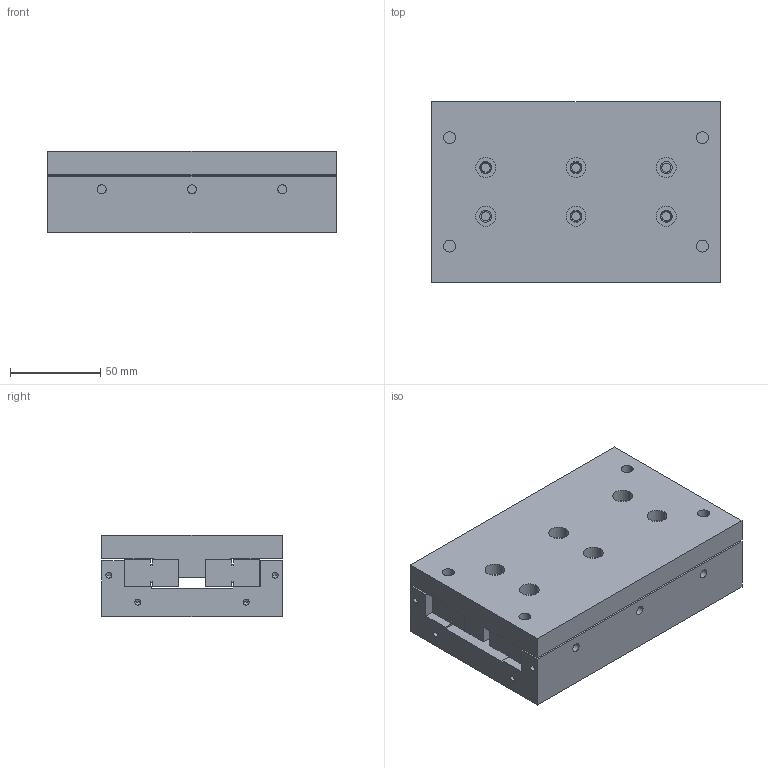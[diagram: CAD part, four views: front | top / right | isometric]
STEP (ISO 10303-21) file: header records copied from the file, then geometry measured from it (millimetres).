
FILE_DESCRIPTION((''),'2;1');
FILE_NAME('CRU6160_ASM','2017-01-24T',('Administrator'),(''),'PRO/ENGINEER BY PARAMETRIC TECHNOLOGY CORPORATION, 2013150','PRO/ENGINEER BY PARAMETRIC TECHNOLOGY CORPORATION, 2013150','');
FILE_SCHEMA(('CONFIG_CONTROL_DESIGN'));
Length unit declared in the file: millimetre
Products named in the file (4): CRU6160-01; CRU6160-GV6150; CRU6160-02; CRU6160_ASM
Assembly tree (4 placements, depth 2):
  CRU6160_ASM
    CRU6160-01
    CRU6160-GV6150  x2
    CRU6160-02
Bounding box: 160 x 100 x 45 mm (x, y, z)
Volume: 650660.1 mm3; surface area: 138528.1 mm2
Topology: 4 solids, 4 shells, 293 faces, 728 edges, 459 vertices
Faces by surface type: cylinder 150, plane 93, cone 50
Entity records: 7116 total; most frequent: DIRECTION 1316, CARTESIAN_POINT 1170, ORIENTED_EDGE 1128, EDGE_CURVE 564, AXIS2_PLACEMENT_3D 513, VERTEX_POINT 367, EDGE_LOOP 321, VECTOR 290
